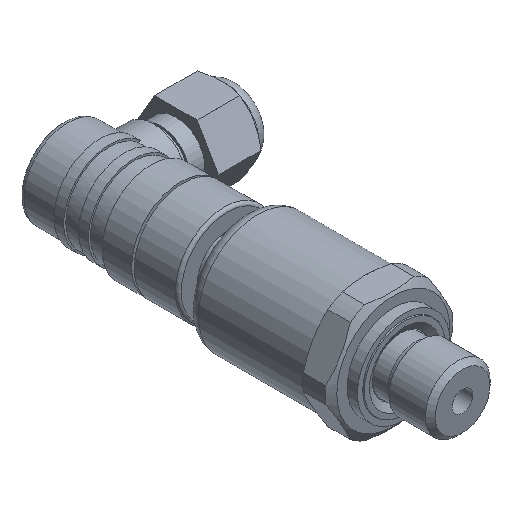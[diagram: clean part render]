
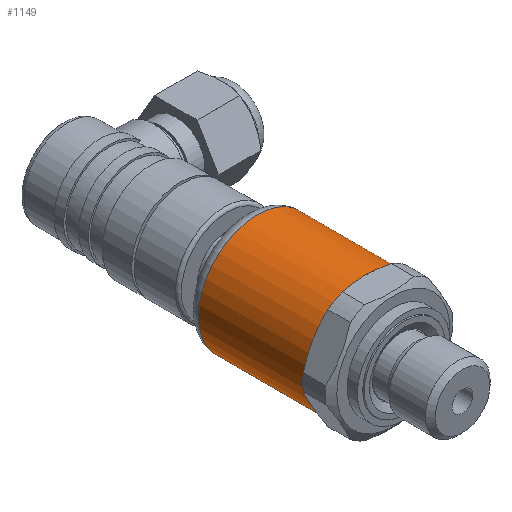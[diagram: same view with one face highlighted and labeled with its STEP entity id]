
A CAD part, isometric view. The second image highlights one B-rep face of the part: STEP entity #1149.
In plain terms, the highlighted cylindrical face has radius 12 mm (diameter 24 mm), a full revolution.
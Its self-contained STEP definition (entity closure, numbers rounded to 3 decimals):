
#1088=CYLINDRICAL_SURFACE('',#2907,12.);
#1149=ADVANCED_FACE('',(#1379,#1380),#1088,.T.);
#1379=FACE_BOUND('',#1550,.T.);
#1380=FACE_BOUND('',#1551,.T.);
#1550=EDGE_LOOP('',(#1794,#1795,#1796,#1797,#1798,#1799));
#1551=EDGE_LOOP('',(#1800));
#1794=ORIENTED_EDGE('',*,*,#2502,.F.);
#1795=ORIENTED_EDGE('',*,*,#2503,.F.);
#1796=ORIENTED_EDGE('',*,*,#2504,.F.);
#1797=ORIENTED_EDGE('',*,*,#2505,.F.);
#1798=ORIENTED_EDGE('',*,*,#2506,.F.);
#1799=ORIENTED_EDGE('',*,*,#2507,.F.);
#1800=ORIENTED_EDGE('',*,*,#2499,.T.);
#2300=VERTEX_POINT('',#3833);
#2303=VERTEX_POINT('',#3842);
#2304=VERTEX_POINT('',#3843);
#2305=VERTEX_POINT('',#3845);
#2306=VERTEX_POINT('',#3847);
#2307=VERTEX_POINT('',#3849);
#2308=VERTEX_POINT('',#3851);
#2499=EDGE_CURVE('',#2300,#2300,#2757,.T.);
#2502=EDGE_CURVE('',#2303,#2304,#2760,.T.);
#2503=EDGE_CURVE('',#2305,#2303,#2761,.T.);
#2504=EDGE_CURVE('',#2306,#2305,#2762,.T.);
#2505=EDGE_CURVE('',#2307,#2306,#2763,.T.);
#2506=EDGE_CURVE('',#2308,#2307,#2764,.T.);
#2507=EDGE_CURVE('',#2304,#2308,#2765,.T.);
#2757=CIRCLE('',#2895,12.);
#2760=CIRCLE('',#2901,12.);
#2761=CIRCLE('',#2902,12.);
#2762=CIRCLE('',#2903,12.);
#2763=CIRCLE('',#2904,12.);
#2764=CIRCLE('',#2905,12.);
#2765=CIRCLE('',#2906,12.);
#2895=AXIS2_PLACEMENT_3D('',#3832,#3190,#3191);
#2901=AXIS2_PLACEMENT_3D('',#3841,#3202,#3203);
#2902=AXIS2_PLACEMENT_3D('',#3844,#3204,#3205);
#2903=AXIS2_PLACEMENT_3D('',#3846,#3206,#3207);
#2904=AXIS2_PLACEMENT_3D('',#3848,#3208,#3209);
#2905=AXIS2_PLACEMENT_3D('',#3850,#3210,#3211);
#2906=AXIS2_PLACEMENT_3D('',#3852,#3212,#3213);
#2907=AXIS2_PLACEMENT_3D('',#3853,#3214,#3215);
#3190=DIRECTION('',(0.,-1.,0.));
#3191=DIRECTION('',(0.031,0.,-1.));
#3202=DIRECTION('',(0.,-1.,0.));
#3203=DIRECTION('',(0.,0.,-1.));
#3204=DIRECTION('',(0.,-1.,0.));
#3205=DIRECTION('',(0.,0.,-1.));
#3206=DIRECTION('',(0.,-1.,0.));
#3207=DIRECTION('',(0.,0.,-1.));
#3208=DIRECTION('',(0.,-1.,0.));
#3209=DIRECTION('',(0.,0.,-1.));
#3210=DIRECTION('',(0.,-1.,0.));
#3211=DIRECTION('',(0.,0.,-1.));
#3212=DIRECTION('',(0.,-1.,0.));
#3213=DIRECTION('',(0.,0.,-1.));
#3214=DIRECTION('',(0.,-1.,0.));
#3215=DIRECTION('',(0.,0.,-1.));
#3832=CARTESIAN_POINT('',(0.,41.75,0.));
#3833=CARTESIAN_POINT('',(0.371,41.75,-11.994));
#3841=CARTESIAN_POINT('',(0.,20.1,0.));
#3842=CARTESIAN_POINT('',(0.,20.1,-12.));
#3843=CARTESIAN_POINT('',(10.392,20.1,-6.));
#3844=CARTESIAN_POINT('',(0.,20.1,0.));
#3845=CARTESIAN_POINT('',(-10.392,20.1,-6.));
#3846=CARTESIAN_POINT('',(0.,20.1,0.));
#3847=CARTESIAN_POINT('',(-10.392,20.1,6.));
#3848=CARTESIAN_POINT('',(0.,20.1,0.));
#3849=CARTESIAN_POINT('',(0.,20.1,12.));
#3850=CARTESIAN_POINT('',(0.,20.1,0.));
#3851=CARTESIAN_POINT('',(10.392,20.1,6.));
#3852=CARTESIAN_POINT('',(0.,20.1,0.));
#3853=CARTESIAN_POINT('',(0.,0.,0.));
